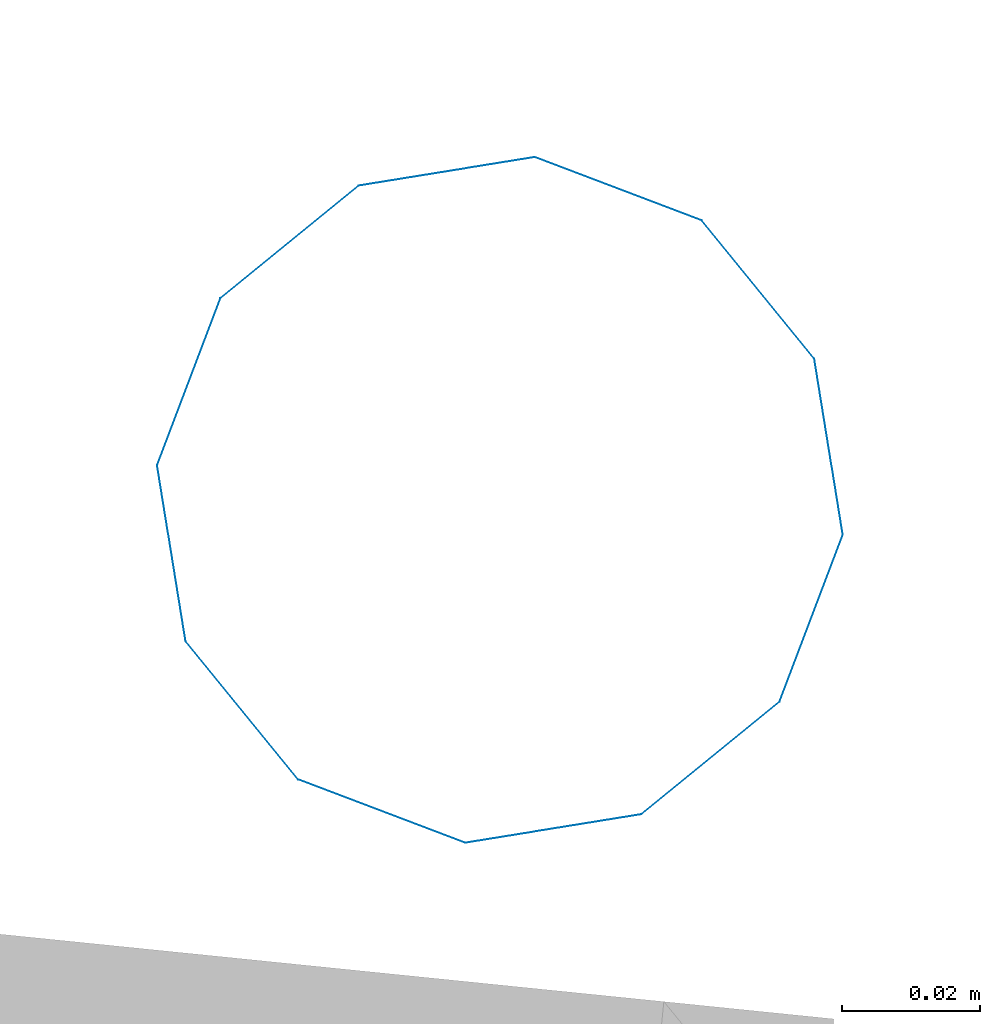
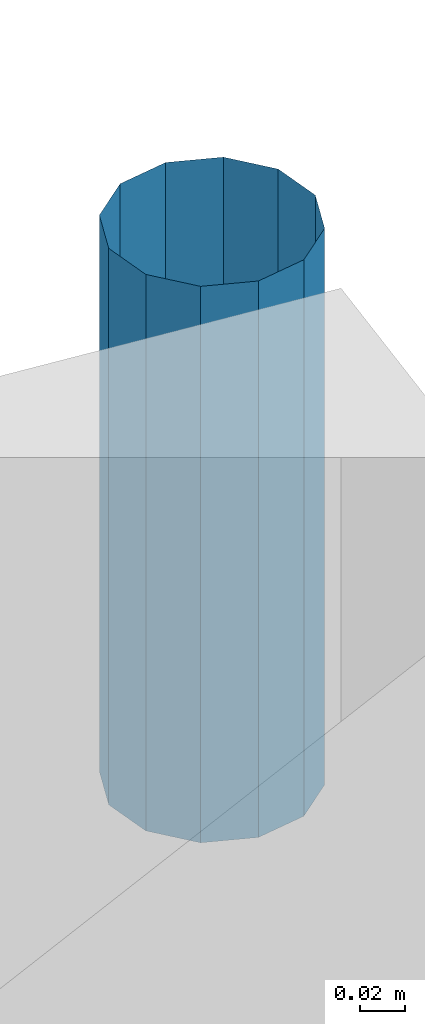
# One storey, part 32 of 41: 1 discrete accessory.
"""IFC2X3 building model written with IfcOpenShell, lengths in millimetres."""

from ifc_helpers import new_model, entity, si_unit, converted_unit, derived_unit, money_unit, direction, frame, origin_with_axes, place, context, subcontext, project, spatial, open_shell, surface_model, source, transform, mapped, type_object, element, save


model = new_model("IFC2X3")

# Units and contexts
model_context = context("Model", 3, precision=0.01, world=origin_with_axes(), true_north=direction((0.0, 1.0)))
body_context = subcontext(model_context, "Body", "Model", "MODEL_VIEW")
ifc_project = project(units=[si_unit("LENGTHUNIT", "METRE", prefix="MILLI"), si_unit("AREAUNIT", "SQUARE_METRE"), si_unit("VOLUMEUNIT", "CUBIC_METRE"), converted_unit("PLANEANGLEUNIT", "DEGREE", entity("IfcPlaneAngleMeasure", 0.0174532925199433), si_unit("PLANEANGLEUNIT", "RADIAN"), dimensions=[0, 0, 0, 0, 0, 0, 0]), money_unit("USD"), converted_unit("TIMEUNIT", "Year", entity("IfcTimeMeasure", 31557600.0), si_unit("TIMEUNIT", "SECOND"), dimensions=[0, 0, 1, 0, 0, 0, 0]), si_unit("MASSUNIT", "GRAM", prefix="KILO"), si_unit("THERMODYNAMICTEMPERATUREUNIT", "DEGREE_CELSIUS"), si_unit("LUMINOUSINTENSITYUNIT", "LUMEN"), si_unit("ENERGYUNIT", "JOULE", prefix="MEGA"), derived_unit("THERMALCONDUCTANCEUNIT", [(si_unit("POWERUNIT", "WATT"), 1), (si_unit("LENGTHUNIT", "METRE"), -1), (si_unit("THERMODYNAMICTEMPERATUREUNIT", "KELVIN"), -1)]), derived_unit("SPECIFICHEATCAPACITYUNIT", [(si_unit("ENERGYUNIT", "JOULE"), 1), (si_unit("MASSUNIT", "GRAM", prefix="KILO"), -1), (si_unit("THERMODYNAMICTEMPERATUREUNIT", "KELVIN"), -1)]), derived_unit("MASSDENSITYUNIT", [(si_unit("MASSUNIT", "GRAM", prefix="KILO"), 1), (si_unit("VOLUMEUNIT", "CUBIC_METRE"), -1)])], contexts=[model_context])

# Site, building, storey
site_placement = place(None, origin_with_axes())
site = spatial("IfcSite", under=ifc_project, at=site_placement, Name="Site", CompositionType="ELEMENT")
building_placement = place(site_placement, origin_with_axes())
building = spatial("IfcBuilding", under=site, at=building_placement, Name="Bâtiment", CompositionType="ELEMENT")
storey_placement = place(building_placement, origin_with_axes())
storey = spatial("IfcBuildingStorey", under=building, at=storey_placement, Name="sousol", CompositionType="ELEMENT", Elevation=0.0)

# Discrete accessory
discrete_accessory_type = type_object("IfcDiscreteAccessoryType", Name="Tuyau descente 27")
shared_shape = source(origin_with_axes(), body_context, "Body", "SurfaceModel", [
    surface_model("IfcShellBasedSurfaceModel", [(-50.0, 0.0, 300.0), (-50.0, 0.0, 0.0), (-43.30127018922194, -25.0, 0.0), (-43.30127018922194, -25.0, 300.0), (-43.30127018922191, 25.00000000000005, 300.0), (-43.30127018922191, 25.00000000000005, 0.0), (-25.00000000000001, -43.30127018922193, 0.0), (-25.00000000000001, -43.30127018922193, 300.0), (-24.99999999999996, 43.30127018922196, 300.0), (-24.99999999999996, 43.30127018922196, 0.0), (0.0, -50.0, 0.0), (0.0, -50.0, 300.0), (0.0, 50.0, 300.0), (0.0, 50.0, 0.0), (24.99999999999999, -43.30127018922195, 0.0), (24.99999999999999, -43.30127018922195, 300.0), (25.00000000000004, 43.30127018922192, 300.0), (25.00000000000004, 43.30127018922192, 0.0), (43.30127018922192, -25.00000000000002, 0.0), (43.30127018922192, -25.00000000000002, 300.0), (43.30127018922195, 24.99999999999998, 300.0), (43.30127018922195, 24.99999999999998, 0.0), (50.0, 0.0, 0.0), (50.0, 0.0, 300.0)], [open_shell([[[0, 1, 2, 3]], [[4, 5, 1, 0]], [[3, 2, 6, 7]], [[8, 9, 5, 4]], [[7, 6, 10, 11]], [[12, 13, 9, 8]], [[11, 10, 14, 15]], [[16, 17, 13, 12]], [[15, 14, 18, 19]], [[20, 21, 17, 16]], [[19, 18, 22, 23]], [[23, 22, 21, 20]]])]),
])
discrete_accessory_placement = place(storey_placement, frame((2239980.094787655, -606145.1765339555, 2700.0), z_axis=(0.0, 0.0, 1.0), x_axis=(-0.9948759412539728, 0.1011032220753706, 0.0)))
element("IfcDiscreteAccessory", 1, at=discrete_accessory_placement, inside=storey, type_object=discrete_accessory_type, Name="Obj.-318", context=body_context, shape_type="MappedRepresentation", body=[
    mapped(shared_shape, transform((0.0, 0.0, 0.0))),
])

save(model, "model.ifc")
